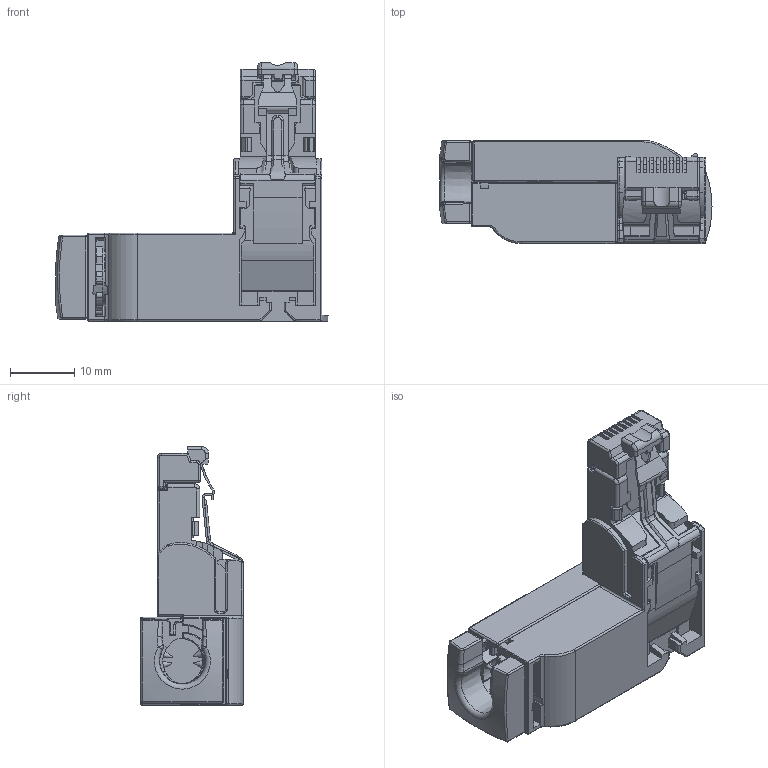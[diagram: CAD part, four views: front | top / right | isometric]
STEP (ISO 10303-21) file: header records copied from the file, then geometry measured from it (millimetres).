
FILE_DESCRIPTION((''),'2;1');
FILE_NAME('6GK19011BB202AA0_001_STEP_ANY_ASM','2024-08-13T',('ceshi'),(''),'PRO/ENGINEER BY PARAMETRIC TECHNOLOGY CORPORATION, 2009220','PRO/ENGINEER BY PARAMETRIC TECHNOLOGY CORPORATION, 2009220','');
FILE_SCHEMA(('CONFIG_CONTROL_DESIGN'));
Length unit declared in the file: millimetre
Products named in the file (2): BODY_ANY; 6GK19011BB202AA0_001_STEP_ANY_ASM
Assembly tree (1 placements, depth 2):
  6GK19011BB202AA0_001_STEP_ANY_ASM
    BODY_ANY
Bounding box: 42.25 x 16.01 x 40.15 mm (x, y, z)
Volume: 9860.7 mm3; surface area: 5802.5 mm2
Topology: 1 solids, 1 shells, 961 faces, 2696 edges, 1691 vertices
Faces by surface type: plane 484, cylinder 315, bspline 48, torus 46, sphere 39, cone 17, extrusion 12
Entity records: 35370 total; most frequent: CARTESIAN_POINT 10816, ORIENTED_EDGE 5314, DIRECTION 4973, EDGE_CURVE 2657, VECTOR 1701, VERTEX_POINT 1691, LINE 1689, AXIS2_PLACEMENT_3D 1636
